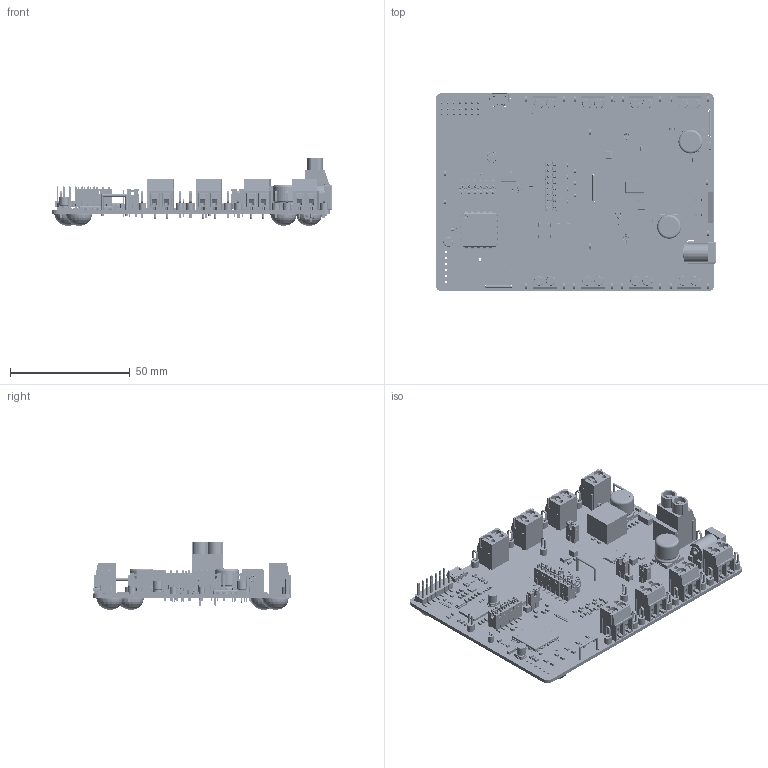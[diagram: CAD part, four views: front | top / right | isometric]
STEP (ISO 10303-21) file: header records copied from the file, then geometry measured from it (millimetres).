
FILE_DESCRIPTION(('Open CASCADE Model'),'2;1');
FILE_NAME('Open CASCADE Shape Model','2024-07-19T13:01:56',('Author'),( 'Open CASCADE'),'Open CASCADE STEP processor 7.5','Open CASCADE 7.5' ,'Unknown');
FILE_SCHEMA(('AUTOMOTIVE_DESIGN { 1 0 10303 214 1 1 1 1 }'));
Length unit declared in the file: millimetre
Products named in the file (505): PCB; Board; Open CASCADE STEP translator 7.5 1.1.1; J2; 694106301002; 694106301002_7; 694106301002_2; 694106301002_1; 694106301002_6; 694106301002_3; 694106301002_5; TP20; Keystone_5010; Keystone_multipurpose_wire; Keystone5005_red; U7; 6325227424; Extruded; 6325224944; C9; Cap_885012205018_0402; terminals; body; logo; TP35; Keystone_5011; Keystone5006_black; TP1; R68; 6325228224; 6325228064; J11; Conn_629105150921_CONN_PTH_USB_8MM0_5MM6; A1; 629105150921; 629105150921_Pin; 629105150921_1; Wurth Electronik; notch; R56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
Assembly tree (905 placements, depth 5):
  PCB
    Board
      Open CASCADE STEP translator 7.5 1.1.1
    J2
      694106301002
        694106301002_7
        694106301002_2
        694106301002_1
        694106301002_6
        694106301002_3
        694106301002_5
    TP20
      Keystone_5010
        Keystone_multipurpose_wire
        Keystone5005_red
    U7
      6325227424
        Extruded
      6325224944
        Extruded
    C9
      Cap_885012205018_0402
        terminals
        body
        logo
    TP35
      Keystone_5011
        Keystone_multipurpose_wire
        Keystone5006_black
    TP1
      Keystone_5011
        Keystone_multipurpose_wire
        Keystone5006_black
    R68
      6325228224  x2
        Extruded
      6325228064
        Extruded
    J11
      Conn_629105150921_CONN_PTH_USB_8MM0_5MM6
        A1
          629105150921
          629105150921_Pin  x5
          629105150921_1
        Wurth Electronik
        notch
    R56
      6325224144  x2
        Extruded
      6325223984
        Extruded
    R58
      6325228224  x2
        Extruded
      6325228064
        Extruded
    R59
      6325228224  x2
        Extruded
      6325228064
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Bounding box: 116.99 x 82.85 x 28.17 mm (x, y, z)
Volume: 31774.8 mm3; surface area: 57480.6 mm2
Topology: 1415 solids, 1415 shells, 27534 faces, 70431 edges, 45660 vertices
Faces by surface type: plane 19965, cylinder 4254, bspline 2534, sphere 464, torus 263, cone 50, revolution 4
Full cylindrical faces by diameter (mm): 0.005 x4, 0.191 x1, 0.2 x1, 0.5 x2, 0.58 x2, 0.75 x2, 0.9 x12, 0.95 x16, 0.98 x2, 1.016 x15, 1.05 x9, 1.127 x6, 1.138 x2, 1.15 x10, 1.3 x22, 1.357 x1, 1.5 x3, 1.6 x24, 1.8 x1, 2 x5, 2.2 x16, 2.42 x2, 2.459 x16, 2.5 x10, 2.8 x2, 3 x49, 3.1 x16, 3.15 x1, 3.2 x24, 3.56 x2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
Entity records: 405817 total; most frequent: CARTESIAN_POINT 77130, ORIENTED_EDGE 58378, DIRECTION 53557, EDGE_CURVE 29189, LINE 22860, VECTOR 22860, VERTEX_POINT 19051, AXIS2_PLACEMENT_3D 15348
